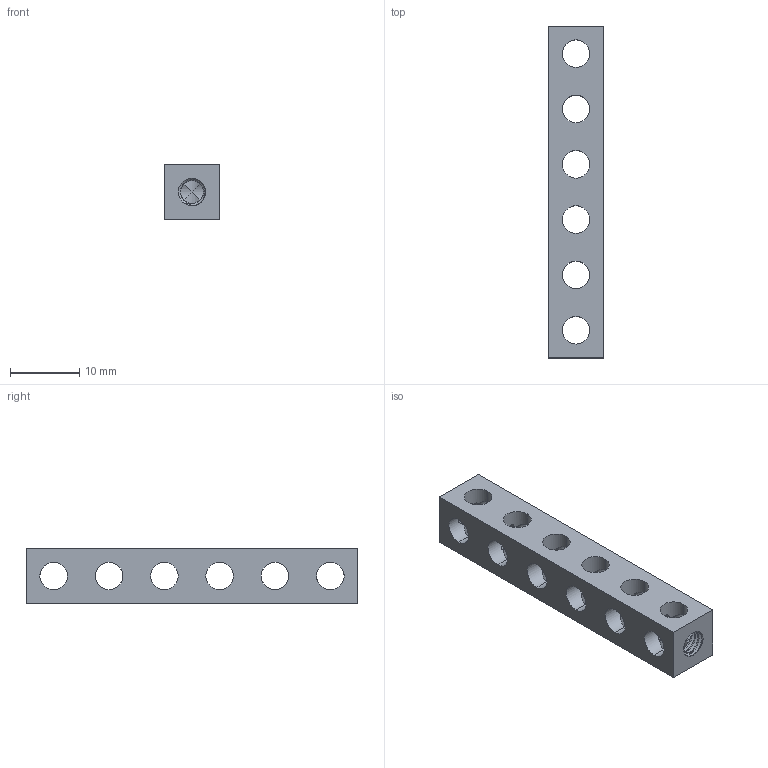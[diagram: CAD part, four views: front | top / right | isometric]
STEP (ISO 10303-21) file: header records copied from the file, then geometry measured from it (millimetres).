
FILE_DESCRIPTION (( 'STEP AP203' ), '1' );
FILE_NAME ('1106-0006-0048.STEP', '2017-03-30T16:10:13', ( '' ), ( '' ), 'SwSTEP 2.0', 'SolidWorks 2016', '' );
FILE_SCHEMA (( 'CONFIG_CONTROL_DESIGN' ));
Length unit declared in the file: millimetre
Products named in the file (1): 1106-0006-0048
Bounding box: 8 x 48 x 8 mm (x, y, z)
Volume: 1994 mm3; surface area: 2328.4 mm2
Topology: 1 solids, 1 shells, 204 faces, 624 edges, 404 vertices
Faces by surface type: cylinder 154, bspline 36, cone 8, plane 6
Entity records: 46765 total; most frequent: CARTESIAN_POINT 42295, ORIENTED_EDGE 1248, EDGE_CURVE 624, DIRECTION 594, VERTEX_POINT 404, EDGE_LOOP 230, AXIS2_PLACEMENT_3D 229, FACE_OUTER_BOUND 204
